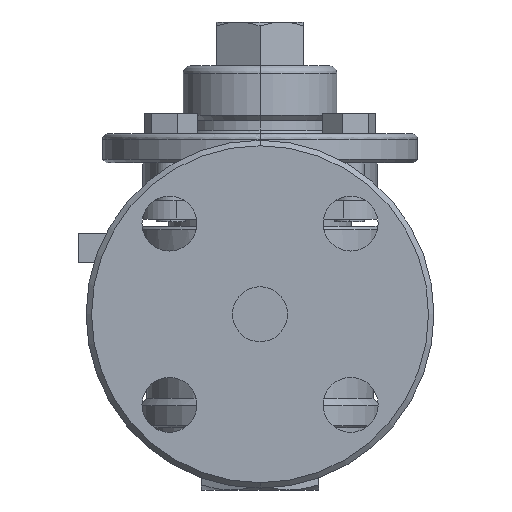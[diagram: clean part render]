
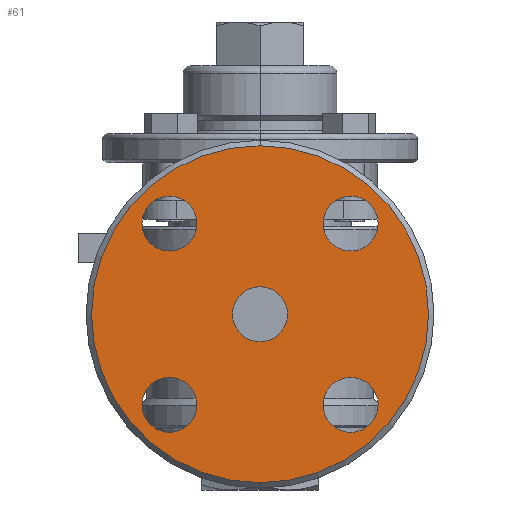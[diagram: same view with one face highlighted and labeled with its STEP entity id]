
A CAD part, left-side view. The second image highlights one B-rep face of the part: STEP entity #61.
In plain terms, the highlighted planar face has unit normal (-1, 0, 0).
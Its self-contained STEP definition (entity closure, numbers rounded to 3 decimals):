
#61=ADVANCED_FACE('',(#466,#467,#468,#469,#470,#471),#465,.F.);
#465=PLANE('',#2410);
#466=FACE_OUTER_BOUND('',#2411,.T.);
#467=FACE_BOUND('',#2412,.T.);
#468=FACE_BOUND('',#2413,.T.);
#469=FACE_BOUND('',#2414,.T.);
#470=FACE_BOUND('',#2415,.T.);
#471=FACE_BOUND('',#2416,.T.);
#2407=CARTESIAN_POINT('',(-78.,-89.689,56.008));
#2408=DIRECTION('',(1.,0.,0.));
#2409=DIRECTION('',(0.,0.,-1.));
#2410=AXIS2_PLACEMENT_3D('',#2407,#2408,#2409);
#2411=EDGE_LOOP('',(#3931,#3932));
#2412=EDGE_LOOP('',(#3933,#3934));
#2413=EDGE_LOOP('',(#3935,#3936));
#2414=EDGE_LOOP('',(#3937,#3938));
#2415=EDGE_LOOP('',(#3939,#3940));
#2416=EDGE_LOOP('',(#3941,#3942));
#3931=ORIENTED_EDGE('',*,*,#4899,.T.);
#3932=ORIENTED_EDGE('',*,*,#4900,.T.);
#3933=ORIENTED_EDGE('',*,*,#4901,.T.);
#3934=ORIENTED_EDGE('',*,*,#4902,.T.);
#3935=ORIENTED_EDGE('',*,*,#4903,.F.);
#3936=ORIENTED_EDGE('',*,*,#4904,.F.);
#3937=ORIENTED_EDGE('',*,*,#4905,.T.);
#3938=ORIENTED_EDGE('',*,*,#4906,.T.);
#3939=ORIENTED_EDGE('',*,*,#4907,.T.);
#3940=ORIENTED_EDGE('',*,*,#4908,.T.);
#3941=ORIENTED_EDGE('',*,*,#4909,.T.);
#3942=ORIENTED_EDGE('',*,*,#4910,.T.);
#4899=EDGE_CURVE('',#6170,#6171,#6172,.T.);
#4900=EDGE_CURVE('',#6171,#6170,#6178,.T.);
#4901=EDGE_CURVE('',#6184,#6185,#6186,.T.);
#4902=EDGE_CURVE('',#6185,#6184,#6192,.T.);
#4903=EDGE_CURVE('',#6198,#6199,#6200,.T.);
#4904=EDGE_CURVE('',#6199,#6198,#6206,.T.);
#4905=EDGE_CURVE('',#6212,#6213,#6214,.T.);
#4906=EDGE_CURVE('',#6213,#6212,#6220,.T.);
#4907=EDGE_CURVE('',#6226,#6227,#6228,.T.);
#4908=EDGE_CURVE('',#6227,#6226,#6234,.T.);
#4909=EDGE_CURVE('',#6240,#6241,#6242,.T.);
#4910=EDGE_CURVE('',#6241,#6240,#6248,.T.);
#6170=VERTEX_POINT('',#9178);
#6171=VERTEX_POINT('',#9179);
#6172=CIRCLE('',#9183,46.008);
#6178=CIRCLE('',#9187,46.008);
#6184=VERTEX_POINT('',#9188);
#6185=VERTEX_POINT('',#9189);
#6186=CIRCLE('',#9193,7.5);
#6192=CIRCLE('',#9197,7.5);
#6198=VERTEX_POINT('',#9198);
#6199=VERTEX_POINT('',#9199);
#6200=CIRCLE('',#9203,7.5);
#6206=CIRCLE('',#9207,7.5);
#6212=VERTEX_POINT('',#9208);
#6213=VERTEX_POINT('',#9209);
#6214=CIRCLE('',#9213,7.5);
#6220=CIRCLE('',#9217,7.5);
#6226=VERTEX_POINT('',#9218);
#6227=VERTEX_POINT('',#9219);
#6228=CIRCLE('',#9223,7.5);
#6234=CIRCLE('',#9227,7.5);
#6240=VERTEX_POINT('',#9228);
#6241=VERTEX_POINT('',#9229);
#6242=CIRCLE('',#9233,7.5);
#6248=CIRCLE('',#9237,7.5);
#9178=CARTESIAN_POINT('',(-78.,0.,46.008));
#9179=CARTESIAN_POINT('',(-78.,0.,-46.008));
#9180=CARTESIAN_POINT('',(-78.,0.,0.));
#9181=DIRECTION('',(-1.,0.,0.));
#9182=DIRECTION('',(0.,0.,1.));
#9183=AXIS2_PLACEMENT_3D('',#9180,#9181,#9182);
#9184=CARTESIAN_POINT('',(-78.,0.,0.));
#9185=DIRECTION('',(-1.,0.,0.));
#9186=DIRECTION('',(0.,0.,1.));
#9187=AXIS2_PLACEMENT_3D('',#9184,#9185,#9186);
#9188=CARTESIAN_POINT('',(-78.,24.749,-17.249));
#9189=CARTESIAN_POINT('',(-78.,24.749,-32.249));
#9190=CARTESIAN_POINT('',(-78.,24.749,-24.749));
#9191=DIRECTION('',(1.,0.,0.));
#9192=DIRECTION('',(0.,0.,1.));
#9193=AXIS2_PLACEMENT_3D('',#9190,#9191,#9192);
#9194=CARTESIAN_POINT('',(-78.,24.749,-24.749));
#9195=DIRECTION('',(1.,0.,0.));
#9196=DIRECTION('',(0.,0.,1.));
#9197=AXIS2_PLACEMENT_3D('',#9194,#9195,#9196);
#9198=CARTESIAN_POINT('',(-78.,0.,-7.5));
#9199=CARTESIAN_POINT('',(-78.,0.,7.5));
#9200=CARTESIAN_POINT('',(-78.,0.,0.));
#9201=DIRECTION('',(-1.,0.,0.));
#9202=DIRECTION('',(0.,0.,1.));
#9203=AXIS2_PLACEMENT_3D('',#9200,#9201,#9202);
#9204=CARTESIAN_POINT('',(-78.,0.,0.));
#9205=DIRECTION('',(-1.,0.,0.));
#9206=DIRECTION('',(0.,0.,1.));
#9207=AXIS2_PLACEMENT_3D('',#9204,#9205,#9206);
#9208=CARTESIAN_POINT('',(-78.,-24.749,-17.249));
#9209=CARTESIAN_POINT('',(-78.,-24.749,-32.249));
#9210=CARTESIAN_POINT('',(-78.,-24.749,-24.749));
#9211=DIRECTION('',(1.,0.,0.));
#9212=DIRECTION('',(0.,0.,1.));
#9213=AXIS2_PLACEMENT_3D('',#9210,#9211,#9212);
#9214=CARTESIAN_POINT('',(-78.,-24.749,-24.749));
#9215=DIRECTION('',(1.,0.,0.));
#9216=DIRECTION('',(0.,0.,1.));
#9217=AXIS2_PLACEMENT_3D('',#9214,#9215,#9216);
#9218=CARTESIAN_POINT('',(-78.,24.749,32.249));
#9219=CARTESIAN_POINT('',(-78.,24.749,17.249));
#9220=CARTESIAN_POINT('',(-78.,24.749,24.749));
#9221=DIRECTION('',(1.,0.,0.));
#9222=DIRECTION('',(0.,0.,1.));
#9223=AXIS2_PLACEMENT_3D('',#9220,#9221,#9222);
#9224=CARTESIAN_POINT('',(-78.,24.749,24.749));
#9225=DIRECTION('',(1.,0.,0.));
#9226=DIRECTION('',(0.,0.,1.));
#9227=AXIS2_PLACEMENT_3D('',#9224,#9225,#9226);
#9228=CARTESIAN_POINT('',(-78.,-24.749,32.249));
#9229=CARTESIAN_POINT('',(-78.,-24.749,17.249));
#9230=CARTESIAN_POINT('',(-78.,-24.749,24.749));
#9231=DIRECTION('',(1.,0.,0.));
#9232=DIRECTION('',(0.,0.,1.));
#9233=AXIS2_PLACEMENT_3D('',#9230,#9231,#9232);
#9234=CARTESIAN_POINT('',(-78.,-24.749,24.749));
#9235=DIRECTION('',(1.,0.,0.));
#9236=DIRECTION('',(0.,0.,1.));
#9237=AXIS2_PLACEMENT_3D('',#9234,#9235,#9236);
